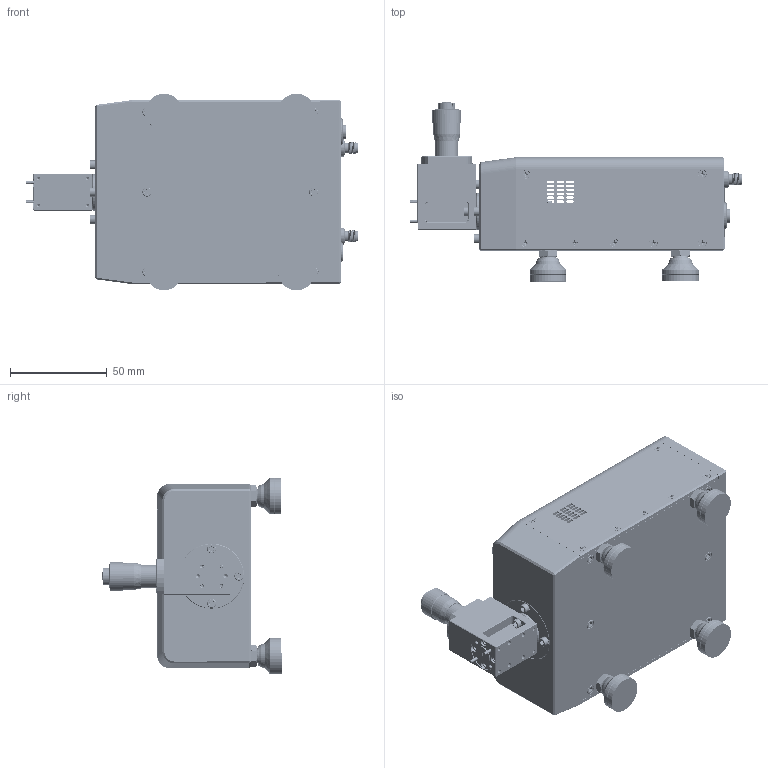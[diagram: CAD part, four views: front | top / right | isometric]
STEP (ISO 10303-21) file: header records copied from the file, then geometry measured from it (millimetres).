
FILE_DESCRIPTION (( 'STEP AP214' ), '1' );
FILE_NAME ('TO-RD-A.STEP', '2024-11-20T17:55:14', ( '' ), ( '' ), 'SwSTEP 2.0', 'SolidWorks 2021', '' );
FILE_SCHEMA (( 'AUTOMOTIVE_DESIGN' ));
Length unit declared in the file: inch
Products named in the file (1): TO-RD-A
Bounding box: 171.94 x 92.72 x 101.9 mm (x, y, z)
Volume: 244030.1 mm3; surface area: 136202.2 mm2
Topology: 74 solids, 79 shells, 4692 faces, 12437 edges, 7908 vertices
Faces by surface type: cylinder 2245, plane 1243, cone 868, bspline 283, sphere 37, torus 16
Entity records: 309925 total; most frequent: CARTESIAN_POINT 143259, ORIENTED_EDGE 24452, DIRECTION 19180, EDGE_CURVE 12226, VERTEX_POINT 7878, AXIS2_PLACEMENT_3D 7298, EDGE_LOOP 5134, LENGTH_MEASURE_WITH_UNIT 4768
